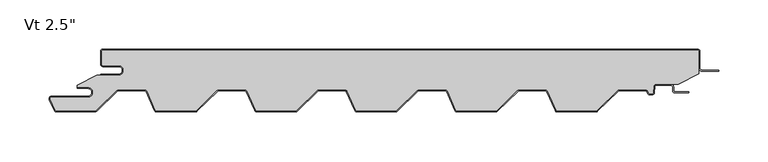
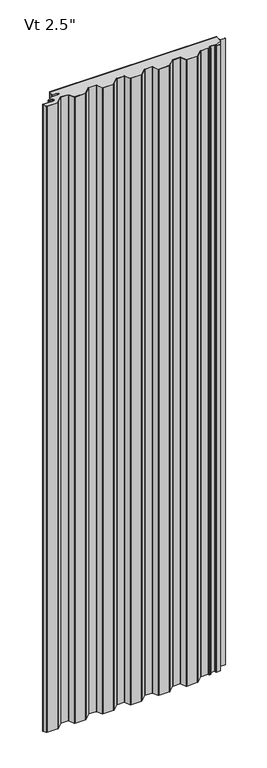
"""IFC4 building model written with IfcOpenShell, lengths in millimetres: plate geometry."""

from ifc_helpers import new_model, si_unit, point, frame_2d, origin, origin_with_axes, place, context, project, spatial, polyline, circle_curve, trimmed, segment, composite_curve, outline, extrude, source, transform, mapped, element, save


def plate_41a4497b(model_context):
    return source(origin(), model_context, "Body", "SweptSolid", [
        extrude(outline(composite_curve([segment(trimmed(circle_curve(frame_2d((-285.74375, -21.4324412)), 4.96875), [point((-285.74375, -26.4011912))], [point((-285.74375, -16.4636912))], True, "CARTESIAN"), True, "CONTINUOUS"), segment(polyline([(-285.74375, -16.4636912), (-301.61875, -16.4636912)]), True, "CONTINUOUS"), segment(trimmed(circle_curve(frame_2d((-301.61875, -15.0824412)), 1.38125), [point((-301.61875, -16.4636912))], [point((-303.0, -15.0824412))], False, "CARTESIAN"), True, "CONTINUOUS"), segment(polyline([(-303.0, -15.0824412), (-303.0, -2.3824412)]), True, "CONTINUOUS"), segment(trimmed(circle_curve(frame_2d((-301.61875, -2.3824412)), 1.38125), [point((-303.0, -2.3824412))], [point((-301.61875, -1.0011912))], False, "CARTESIAN"), True, "CONTINUOUS"), segment(polyline([(-301.61875, -1.0011912), (301.63125, -1.0011912)]), True, "CONTINUOUS"), segment(trimmed(circle_curve(frame_2d((301.63125, -2.3824412)), 1.38125), [point((301.63125, -1.0011912))], [point((303.0125, -2.3824412))], False, "CARTESIAN"), True, "CONTINUOUS"), segment(polyline([(303.0125, -2.3824412), (303.0125, -24.8719682), (282.1955434, -35.5136912), (259.7683457, -35.5136912)]), True, "CONTINUOUS"), segment(trimmed(circle_curve(frame_2d((259.7683457, -38.1011912)), 2.5875), [point((259.7683457, -35.5136912))], [point((257.1843918, -37.9657719))], True, "CARTESIAN"), True, "CONTINUOUS"), segment(polyline([(257.1843918, -37.9657719), (256.8823155, -43.7297302)]), True, "CONTINUOUS"), segment(trimmed(circle_curve(frame_2d((255.5029585, -43.6574412)), 1.38125), [point((256.8823155, -43.7297302))], [point((255.5029585, -45.0386912))], False, "CARTESIAN"), True, "CONTINUOUS"), segment(polyline([(255.5029585, -45.0386912), (253.1754519, -45.0386912)]), True, "CONTINUOUS"), segment(trimmed(circle_curve(frame_2d((253.1754519, -43.6574412)), 1.38125), [point((253.1754519, -45.0386912))], [point((251.9124516, -44.2166208))], False, "CARTESIAN"), True, "CONTINUOUS"), segment(polyline([(251.9124516, -44.2166208), (251.1640306, -42.5261871)]), True, "CONTINUOUS"), segment(trimmed(circle_curve(frame_2d((248.7980481, -43.5737)), 2.5875), [point((251.1640306, -42.5261871))], [point((248.7980481, -40.9862))], True, "CARTESIAN"), True, "CONTINUOUS"), segment(polyline([(248.7980481, -40.9862), (222.2742003, -40.9862)]), True, "CONTINUOUS"), segment(trimmed(circle_curve(frame_2d((222.2742003, -43.5737)), 2.5875), [point((222.2742003, -40.9862))], [point((220.4745496, -41.7145567))], True, "CARTESIAN"), True, "CONTINUOUS"), segment(polyline([(220.4745496, -41.7145567), (199.4036462, -62.1111912)]), True, "CONTINUOUS"), segment(trimmed(circle_curve(frame_2d((198.4429631, -61.11875)), 1.38125), [point((199.4036462, -62.1111912))], [point((198.4429631, -62.5))], False, "CARTESIAN"), True, "CONTINUOUS"), segment(polyline([(198.4429631, -62.5), (159.3062557, -62.5)]), True, "CONTINUOUS"), segment(trimmed(circle_curve(frame_2d((159.3062557, -61.11875)), 1.38125), [point((159.3062557, -62.5))], [point((158.0432554, -61.6779296))], False, "CARTESIAN"), True, "CONTINUOUS"), segment(polyline([(158.0432554, -61.6779296), (149.5640306, -42.5261871)]), True, "CONTINUOUS"), segment(trimmed(circle_curve(frame_2d((147.1980481, -43.5737)), 2.5875), [point((149.5640306, -42.5261871))], [point((147.1980481, -40.9862))], True, "CARTESIAN"), True, "CONTINUOUS"), segment(polyline([(147.1980481, -40.9862), (120.6742003, -40.9862)]), True, "CONTINUOUS"), segment(trimmed(circle_curve(frame_2d((120.6742003, -43.5737)), 2.5875), [point((120.6742003, -40.9862))], [point((118.8745496, -41.7145567))], True, "CARTESIAN"), True, "CONTINUOUS"), segment(polyline([(118.8745496, -41.7145567), (97.8036462, -62.1111912)]), True, "CONTINUOUS"), segment(trimmed(circle_curve(frame_2d((96.8429631, -61.11875)), 1.38125), [point((97.8036462, -62.1111912))], [point((96.8429631, -62.5))], False, "CARTESIAN"), True, "CONTINUOUS"), segment(polyline([(96.8429631, -62.5), (57.7062557, -62.5)]), True, "CONTINUOUS"), segment(trimmed(circle_curve(frame_2d((57.7062557, -61.11875)), 1.38125), [point((57.7062557, -62.5))], [point((56.4432554, -61.6779296))], False, "CARTESIAN"), True, "CONTINUOUS"), segment(polyline([(56.4432554, -61.6779296), (47.9640306, -42.5261871)]), True, "CONTINUOUS"), segment(trimmed(circle_curve(frame_2d((45.5980481, -43.5737)), 2.5875), [point((47.9640306, -42.5261871))], [point((45.5980481, -40.9862))], True, "CARTESIAN"), True, "CONTINUOUS"), segment(polyline([(45.5980481, -40.9862), (19.0742003, -40.9862)]), True, "CONTINUOUS"), segment(trimmed(circle_curve(frame_2d((19.0742003, -43.5737)), 2.5875), [point((19.0742003, -40.9862))], [point((17.2745496, -41.7145567))], True, "CARTESIAN"), True, "CONTINUOUS"), segment(polyline([(17.2745496, -41.7145567), (-3.7963538, -62.1111912)]), True, "CONTINUOUS"), segment(trimmed(circle_curve(frame_2d((-4.7570369, -61.11875)), 1.38125), [point((-3.7963538, -62.1111912))], [point((-4.7570369, -62.5))], False, "CARTESIAN"), True, "CONTINUOUS"), segment(polyline([(-4.7570369, -62.5), (-43.8937443, -62.5)]), True, "CONTINUOUS"), segment(trimmed(circle_curve(frame_2d((-43.8937443, -61.11875)), 1.38125), [point((-43.8937443, -62.5))], [point((-45.1567446, -61.6779296))], False, "CARTESIAN"), True, "CONTINUOUS"), segment(polyline([(-45.1567446, -61.6779296), (-53.6359694, -42.5261871)]), True, "CONTINUOUS"), segment(trimmed(circle_curve(frame_2d((-56.0019519, -43.5737)), 2.5875), [point((-53.6359694, -42.5261871))], [point((-56.0019519, -40.9862))], True, "CARTESIAN"), True, "CONTINUOUS"), segment(polyline([(-56.0019519, -40.9862), (-82.5257997, -40.9862)]), True, "CONTINUOUS"), segment(trimmed(circle_curve(frame_2d((-82.5257997, -43.5737)), 2.5875), [point((-82.5257997, -40.9862))], [point((-84.3254504, -41.7145567))], True, "CARTESIAN"), True, "CONTINUOUS"), segment(polyline([(-84.3254504, -41.7145567), (-105.3963538, -62.1111912)]), True, "CONTINUOUS"), segment(trimmed(circle_curve(frame_2d((-106.3570369, -61.11875)), 1.38125), [point((-105.3963538, -62.1111912))], [point((-106.3570369, -62.5))], False, "CARTESIAN"), True, "CONTINUOUS"), segment(polyline([(-106.3570369, -62.5), (-145.4937443, -62.5)]), True, "CONTINUOUS"), segment(trimmed(circle_curve(frame_2d((-145.4937443, -61.11875)), 1.38125), [point((-145.4937443, -62.5))], [point((-146.7567446, -61.6779296))], False, "CARTESIAN"), True, "CONTINUOUS"), segment(polyline([(-146.7567446, -61.6779296), (-155.2359694, -42.5261871)]), True, "CONTINUOUS"), segment(trimmed(circle_curve(frame_2d((-157.6019519, -43.5737)), 2.5875), [point((-155.2359694, -42.5261871))], [point((-157.6019519, -40.9862))], True, "CARTESIAN"), True, "CONTINUOUS"), segment(polyline([(-157.6019519, -40.9862), (-184.1257997, -40.9862)]), True, "CONTINUOUS"), segment(trimmed(circle_curve(frame_2d((-184.1257997, -43.5737)), 2.5875), [point((-184.1257997, -40.9862))], [point((-185.9254504, -41.7145567))], True, "CARTESIAN"), True, "CONTINUOUS"), segment(polyline([(-185.9254504, -41.7145567), (-206.9963538, -62.1111912)]), True, "CONTINUOUS"), segment(trimmed(circle_curve(frame_2d((-207.9570369, -61.11875)), 1.38125), [point((-206.9963538, -62.1111912))], [point((-207.9570369, -62.5))], False, "CARTESIAN"), True, "CONTINUOUS"), segment(polyline([(-207.9570369, -62.5), (-247.0937443, -62.5)]), True, "CONTINUOUS"), segment(trimmed(circle_curve(frame_2d((-247.0937443, -61.11875)), 1.38125), [point((-247.0937443, -62.5))], [point((-248.3567446, -61.6779296))], False, "CARTESIAN"), True, "CONTINUOUS"), segment(polyline([(-248.3567446, -61.6779296), (-256.8359694, -42.5261871)]), True, "CONTINUOUS"), segment(trimmed(circle_curve(frame_2d((-259.2019519, -43.5737)), 2.5875), [point((-256.8359694, -42.5261871))], [point((-259.2019519, -40.9862))], True, "CARTESIAN"), True, "CONTINUOUS"), segment(polyline([(-259.2019519, -40.9862), (-285.7257997, -40.9862)]), True, "CONTINUOUS"), segment(trimmed(circle_curve(frame_2d((-285.7257997, -43.5737)), 2.5875), [point((-285.7257997, -40.9862))], [point((-287.5254504, -41.7145567))], True, "CARTESIAN"), True, "CONTINUOUS"), segment(polyline([(-287.5254504, -41.7145567), (-308.3876931, -61.9092077)]), True, "CONTINUOUS"), segment(trimmed(circle_curve(frame_2d((-309.8474446, -60.4012)), 2.0988), [point((-308.3876931, -61.9092077))], [point((-309.8474446, -62.5))], False, "CARTESIAN"), True, "CONTINUOUS"), segment(polyline([(-309.8474446, -62.5), (-348.6937443, -62.5)]), True, "CONTINUOUS"), segment(trimmed(circle_curve(frame_2d((-348.6937443, -61.11875)), 1.38125), [point((-348.6937443, -62.5))], [point((-349.9567446, -61.6779296))], False, "CARTESIAN"), True, "CONTINUOUS"), segment(polyline([(-349.9567446, -61.6779296), (-354.8761552, -50.5666208)]), True, "CONTINUOUS"), segment(trimmed(circle_curve(frame_2d((-353.6131549, -50.0074412)), 1.38125), [point((-354.8761552, -50.5666208))], [point((-353.6131549, -48.6261912))], False, "CARTESIAN"), True, "CONTINUOUS"), segment(polyline([(-353.6131549, -48.6261912), (-316.7, -48.6261912)]), True, "CONTINUOUS"), segment(trimmed(circle_curve(frame_2d((-316.7, -43.6574412)), 4.96875), [point((-316.7, -48.6261912))], [point((-316.7, -38.6886912))], True, "CARTESIAN"), True, "CONTINUOUS"), segment(polyline([(-316.7, -38.6886912), (-327.8125, -38.6886912), (-327.8125, -36.533822), (-307.9914112, -26.4011912), (-285.74375, -26.4011912)]), True, "CONTINUOUS")], self_intersect=False)), origin_with_axes(), (0.0, 0.0, 1.0), 2400.0),
        extrude(outline(composite_curve([segment(polyline([(-304.0, -25.4), (-285.74375, -25.4)]), True, "CONTINUOUS"), segment(trimmed(circle_curve(frame_2d((-285.74375, -21.43125)), 3.96875), [point((-285.74375, -25.4))], [point((-285.74375, -17.4625))], True, "CARTESIAN"), True, "CONTINUOUS"), segment(polyline([(-285.74375, -17.4625), (-301.61875, -17.4625)]), True, "CONTINUOUS"), segment(trimmed(circle_curve(frame_2d((-301.61875, -15.08125)), 2.38125), [point((-301.61875, -17.4625))], [point((-304.0, -15.08125))], False, "CARTESIAN"), True, "CONTINUOUS"), segment(polyline([(-304.0, -15.08125), (-304.0, -2.38125)]), True, "CONTINUOUS"), segment(trimmed(circle_curve(frame_2d((-301.61875, -2.38125)), 2.38125), [point((-304.0, -2.38125))], [point((-301.61875, 0.0))], False, "CARTESIAN"), True, "CONTINUOUS"), segment(polyline([(-301.61875, 0.0), (301.63125, 0.0)]), True, "CONTINUOUS"), segment(trimmed(circle_curve(frame_2d((301.63125, -2.38125)), 2.38125), [point((301.63125, 0.0))], [point((304.0125, -2.38125))], False, "CARTESIAN"), True, "CONTINUOUS"), segment(polyline([(304.0125, -2.38125), (304.0125, -19.446875)]), True, "CONTINUOUS"), segment(trimmed(circle_curve(frame_2d((305.6, -19.446875)), 1.5875), [point((304.0125, -19.446875))], [point((305.6, -21.034375))], True, "CARTESIAN"), True, "CONTINUOUS"), segment(polyline([(305.6, -21.034375), (323.0625, -21.034375), (323.0625, -22.034375), (305.6, -22.034375)]), True, "CONTINUOUS"), segment(trimmed(circle_curve(frame_2d((305.6, -19.446875)), 2.5875), [point((305.6, -22.034375))], [point((303.0125, -19.446875))], False, "CARTESIAN"), True, "CONTINUOUS"), segment(polyline([(303.0125, -19.446875), (303.0125, -2.38125)]), True, "CONTINUOUS"), segment(trimmed(circle_curve(frame_2d((301.63125, -2.38125)), 1.38125), [point((303.0125, -2.38125))], [point((301.63125, -1.0))], True, "CARTESIAN"), True, "CONTINUOUS"), segment(polyline([(301.63125, -1.0), (-301.61875, -1.0)]), True, "CONTINUOUS"), segment(trimmed(circle_curve(frame_2d((-301.61875, -2.38125)), 1.38125), [point((-301.61875, -1.0))], [point((-303.0, -2.38125))], True, "CARTESIAN"), True, "CONTINUOUS"), segment(polyline([(-303.0, -2.38125), (-303.0, -15.08125)]), True, "CONTINUOUS"), segment(trimmed(circle_curve(frame_2d((-301.61875, -15.08125)), 1.38125), [point((-303.0, -15.08125))], [point((-301.61875, -16.4625))], True, "CARTESIAN"), True, "CONTINUOUS"), segment(polyline([(-301.61875, -16.4625), (-285.74375, -16.4625)]), True, "CONTINUOUS"), segment(trimmed(circle_curve(frame_2d((-285.74375, -21.43125)), 4.96875), [point((-285.74375, -16.4625))], [point((-285.74375, -26.4))], False, "CARTESIAN"), True, "CONTINUOUS"), segment(polyline([(-285.74375, -26.4), (-304.0, -26.4), (-304.0, -25.4)]), True, "CONTINUOUS")], self_intersect=False)), origin_with_axes(), (0.0, 0.0, 1.0), 2400.0),
        extrude(outline(composite_curve([segment(trimmed(circle_curve(frame_2d((-316.7, -43.6574412)), 3.96875), [point((-316.7, -47.6261912))], [point((-316.7, -39.6886912))], True, "CARTESIAN"), True, "CONTINUOUS"), segment(polyline([(-316.7, -39.6886912), (-327.8125, -39.6886912), (-327.8125, -38.6886912), (-316.7, -38.6886912)]), True, "CONTINUOUS"), segment(trimmed(circle_curve(frame_2d((-316.7, -43.6574412)), 4.96875), [point((-316.7, -38.6886912))], [point((-316.7, -48.6261912))], False, "CARTESIAN"), True, "CONTINUOUS"), segment(polyline([(-316.7, -48.6261912), (-353.6131549, -48.6261912)]), True, "CONTINUOUS"), segment(trimmed(circle_curve(frame_2d((-353.6131549, -50.0074412)), 1.38125), [point((-353.6131549, -48.6261912))], [point((-354.8761552, -50.5666208))], True, "CARTESIAN"), True, "CONTINUOUS"), segment(polyline([(-354.8761552, -50.5666208), (-349.9567446, -61.6779296)]), True, "CONTINUOUS"), segment(trimmed(circle_curve(frame_2d((-348.6937443, -61.11875)), 1.38125), [point((-349.9567446, -61.6779296))], [point((-348.6937443, -62.5))], True, "CARTESIAN"), True, "CONTINUOUS"), segment(polyline([(-348.6937443, -62.5), (-309.8474446, -62.5)]), True, "CONTINUOUS"), segment(trimmed(circle_curve(frame_2d((-309.8474446, -60.4012)), 2.0988), [point((-309.8474446, -62.5))], [point((-308.3876931, -61.9092077))], True, "CARTESIAN"), True, "CONTINUOUS"), segment(polyline([(-308.3876931, -61.9092077), (-287.5254504, -41.7145567)]), True, "CONTINUOUS"), segment(trimmed(circle_curve(frame_2d((-285.7257997, -43.5737)), 2.5875), [point((-287.5254504, -41.7145567))], [point((-285.7257997, -40.9862))], False, "CARTESIAN"), True, "CONTINUOUS"), segment(polyline([(-285.7257997, -40.9862), (-259.2019519, -40.9862)]), True, "CONTINUOUS"), segment(trimmed(circle_curve(frame_2d((-259.2019519, -43.5737)), 2.5875), [point((-259.2019519, -40.9862))], [point((-256.8359694, -42.5261871))], False, "CARTESIAN"), True, "CONTINUOUS"), segment(polyline([(-256.8359694, -42.5261871), (-248.3567446, -61.6779296)]), True, "CONTINUOUS"), segment(trimmed(circle_curve(frame_2d((-247.0937443, -61.11875)), 1.38125), [point((-248.3567446, -61.6779296))], [point((-247.0937443, -62.5))], True, "CARTESIAN"), True, "CONTINUOUS"), segment(polyline([(-247.0937443, -62.5), (-207.9570369, -62.5)]), True, "CONTINUOUS"), segment(trimmed(circle_curve(frame_2d((-207.9570369, -61.11875)), 1.38125), [point((-207.9570369, -62.5))], [point((-206.9963538, -62.1111912))], True, "CARTESIAN"), True, "CONTINUOUS"), segment(polyline([(-206.9963538, -62.1111912), (-185.9254504, -41.7145567)]), True, "CONTINUOUS"), segment(trimmed(circle_curve(frame_2d((-184.1257997, -43.5737)), 2.5875), [point((-185.9254504, -41.7145567))], [point((-184.1257997, -40.9862))], False, "CARTESIAN"), True, "CONTINUOUS"), segment(polyline([(-184.1257997, -40.9862), (-157.6019519, -40.9862)]), True, "CONTINUOUS"), segment(trimmed(circle_curve(frame_2d((-157.6019519, -43.5737)), 2.5875), [point((-157.6019519, -40.9862))], [point((-155.2359694, -42.5261871))], False, "CARTESIAN"), True, "CONTINUOUS"), segment(polyline([(-155.2359694, -42.5261871), (-146.7567446, -61.6779296)]), True, "CONTINUOUS"), segment(trimmed(circle_curve(frame_2d((-145.4937443, -61.11875)), 1.38125), [point((-146.7567446, -61.6779296))], [point((-145.4937443, -62.5))], True, "CARTESIAN"), True, "CONTINUOUS"), segment(polyline([(-145.4937443, -62.5), (-106.3570369, -62.5)]), True, "CONTINUOUS"), segment(trimmed(circle_curve(frame_2d((-106.3570369, -61.11875)), 1.38125), [point((-106.3570369, -62.5))], [point((-105.3963538, -62.1111912))], True, "CARTESIAN"), True, "CONTINUOUS"), segment(polyline([(-105.3963538, -62.1111912), (-84.3254504, -41.7145567)]), True, "CONTINUOUS"), segment(trimmed(circle_curve(frame_2d((-82.5257997, -43.5737)), 2.5875), [point((-84.3254504, -41.7145567))], [point((-82.5257997, -40.9862))], False, "CARTESIAN"), True, "CONTINUOUS"), segment(polyline([(-82.5257997, -40.9862), (-56.0019519, -40.9862)]), True, "CONTINUOUS"), segment(trimmed(circle_curve(frame_2d((-56.0019519, -43.5737)), 2.5875), [point((-56.0019519, -40.9862))], [point((-53.6359694, -42.5261871))], False, "CARTESIAN"), True, "CONTINUOUS"), segment(polyline([(-53.6359694, -42.5261871), (-45.1567446, -61.6779296)]), True, "CONTINUOUS"), segment(trimmed(circle_curve(frame_2d((-43.8937443, -61.11875)), 1.38125), [point((-45.1567446, -61.6779296))], [point((-43.8937443, -62.5))], True, "CARTESIAN"), True, "CONTINUOUS"), segment(polyline([(-43.8937443, -62.5), (-4.7570369, -62.5)]), True, "CONTINUOUS"), segment(trimmed(circle_curve(frame_2d((-4.7570369, -61.11875)), 1.38125), [point((-4.7570369, -62.5))], [point((-3.7963538, -62.1111912))], True, "CARTESIAN"), True, "CONTINUOUS"), segment(polyline([(-3.7963538, -62.1111912), (17.2745496, -41.7145567)]), True, "CONTINUOUS"), segment(trimmed(circle_curve(frame_2d((19.0742003, -43.5737)), 2.5875), [point((17.2745496, -41.7145567))], [point((19.0742003, -40.9862))], False, "CARTESIAN"), True, "CONTINUOUS"), segment(polyline([(19.0742003, -40.9862), (45.5980481, -40.9862)]), True, "CONTINUOUS"), segment(trimmed(circle_curve(frame_2d((45.5980481, -43.5737)), 2.5875), [point((45.5980481, -40.9862))], [point((47.9640306, -42.5261871))], False, "CARTESIAN"), True, "CONTINUOUS"), segment(polyline([(47.9640306, -42.5261871), (56.4432554, -61.6779296)]), True, "CONTINUOUS"), segment(trimmed(circle_curve(frame_2d((57.7062557, -61.11875)), 1.38125), [point((56.4432554, -61.6779296))], [point((57.7062557, -62.5))], True, "CARTESIAN"), True, "CONTINUOUS"), segment(polyline([(57.7062557, -62.5), (96.8429631, -62.5)]), True, "CONTINUOUS"), segment(trimmed(circle_curve(frame_2d((96.8429631, -61.11875)), 1.38125), [point((96.8429631, -62.5))], [point((97.8036462, -62.1111912))], True, "CARTESIAN"), True, "CONTINUOUS"), segment(polyline([(97.8036462, -62.1111912), (118.8745496, -41.7145567)]), True, "CONTINUOUS"), segment(trimmed(circle_curve(frame_2d((120.6742003, -43.5737)), 2.5875), [point((118.8745496, -41.7145567))], [point((120.6742003, -40.9862))], False, "CARTESIAN"), True, "CONTINUOUS"), segment(polyline([(120.6742003, -40.9862), (147.1980481, -40.9862)]), True, "CONTINUOUS"), segment(trimmed(circle_curve(frame_2d((147.1980481, -43.5737)), 2.5875), [point((147.1980481, -40.9862))], [point((149.5640306, -42.5261871))], False, "CARTESIAN"), True, "CONTINUOUS"), segment(polyline([(149.5640306, -42.5261871), (158.0432554, -61.6779296)]), True, "CONTINUOUS"), segment(trimmed(circle_curve(frame_2d((159.3062557, -61.11875)), 1.38125), [point((158.0432554, -61.6779296))], [point((159.3062557, -62.5))], True, "CARTESIAN"), True, "CONTINUOUS"), segment(polyline([(159.3062557, -62.5), (198.4429631, -62.5)]), True, "CONTINUOUS"), segment(trimmed(circle_curve(frame_2d((198.4429631, -61.11875)), 1.38125), [point((198.4429631, -62.5))], [point((199.4036462, -62.1111912))], True, "CARTESIAN"), True, "CONTINUOUS"), segment(polyline([(199.4036462, -62.1111912), (220.4745496, -41.7145567)]), True, "CONTINUOUS"), segment(trimmed(circle_curve(frame_2d((222.2742003, -43.5737)), 2.5875), [point((220.4745496, -41.7145567))], [point((222.2742003, -40.9862))], False, "CARTESIAN"), True, "CONTINUOUS"), segment(polyline([(222.2742003, -40.9862), (248.7980481, -40.9862)]), True, "CONTINUOUS"), segment(trimmed(circle_curve(frame_2d((248.7980481, -43.5737)), 2.5875), [point((248.7980481, -40.9862))], [point((251.1640306, -42.5261871))], False, "CARTESIAN"), True, "CONTINUOUS"), segment(polyline([(251.1640306, -42.5261871), (251.9124516, -44.2166208)]), True, "CONTINUOUS"), segment(trimmed(circle_curve(frame_2d((253.1754519, -43.6574412)), 1.38125), [point((251.9124516, -44.2166208))], [point((253.1754519, -45.0386912))], True, "CARTESIAN"), True, "CONTINUOUS"), segment(polyline([(253.1754519, -45.0386912), (255.5029585, -45.0386912)]), True, "CONTINUOUS"), segment(trimmed(circle_curve(frame_2d((255.5029585, -43.6574412)), 1.38125), [point((255.5029585, -45.0386912))], [point((256.8823155, -43.7297302))], True, "CARTESIAN"), True, "CONTINUOUS"), segment(polyline([(256.8823155, -43.7297302), (257.1843918, -37.9657719)]), True, "CONTINUOUS"), segment(trimmed(circle_curve(frame_2d((259.7683457, -38.1011912)), 2.5875), [point((257.1843918, -37.9657719))], [point((259.7683457, -35.5136912))], False, "CARTESIAN"), True, "CONTINUOUS"), segment(polyline([(259.7683457, -35.5136912), (274.64375, -35.5136912)]), True, "CONTINUOUS"), segment(trimmed(circle_curve(frame_2d((274.64375, -38.1011912)), 2.5875), [point((274.64375, -35.5136912))], [point((277.23125, -38.1011912))], False, "CARTESIAN"), True, "CONTINUOUS"), segment(polyline([(277.23125, -38.1011912), (277.23125, -41.6730662)]), True, "CONTINUOUS"), segment(trimmed(circle_curve(frame_2d((278.6125, -41.6730662)), 1.38125), [point((277.23125, -41.6730662))], [point((278.6125, -43.0543162))], True, "CARTESIAN"), True, "CONTINUOUS"), segment(polyline([(278.6125, -43.0543162), (292.9, -43.0543162), (292.9, -44.0543162), (278.6125, -44.0543162)]), True, "CONTINUOUS"), segment(trimmed(circle_curve(frame_2d((278.6125, -41.6730662)), 2.38125), [point((278.6125, -44.0543162))], [point((276.23125, -41.6730662))], False, "CARTESIAN"), True, "CONTINUOUS"), segment(polyline([(276.23125, -41.6730662), (276.23125, -38.1011912)]), True, "CONTINUOUS"), segment(trimmed(circle_curve(frame_2d((274.64375, -38.1011912)), 1.5875), [point((276.23125, -38.1011912))], [point((274.64375, -36.5136912))], True, "CARTESIAN"), True, "CONTINUOUS"), segment(polyline([(274.64375, -36.5136912), (259.7683457, -36.5136912)]), True, "CONTINUOUS"), segment(trimmed(circle_curve(frame_2d((259.7683457, -38.1011912)), 1.5875), [point((259.7683457, -36.5136912))], [point((258.1830213, -38.0181078))], True, "CARTESIAN"), True, "CONTINUOUS"), segment(polyline([(258.1830213, -38.0181078), (257.8809451, -43.7820662)]), True, "CONTINUOUS"), segment(trimmed(circle_curve(frame_2d((255.5029585, -43.6574412)), 2.38125), [point((257.8809451, -43.7820662))], [point((255.5029585, -46.0386912))], False, "CARTESIAN"), True, "CONTINUOUS"), segment(polyline([(255.5029585, -46.0386912), (253.1754519, -46.0386912)]), True, "CONTINUOUS"), segment(trimmed(circle_curve(frame_2d((253.1754519, -43.6574412)), 2.38125), [point((253.1754519, -46.0386912))], [point((250.9980623, -44.6214567))], False, "CARTESIAN"), True, "CONTINUOUS"), segment(polyline([(250.9980623, -44.6214567), (250.2496412, -42.931023)]), True, "CONTINUOUS"), segment(trimmed(circle_curve(frame_2d((248.7980481, -43.5737)), 1.5875), [point((250.2496412, -42.931023))], [point((248.7980481, -41.9862))], True, "CARTESIAN"), True, "CONTINUOUS"), segment(polyline([(248.7980481, -41.9862), (222.2742003, -41.9862)]), True, "CONTINUOUS"), segment(trimmed(circle_curve(frame_2d((222.2742003, -43.5737)), 1.5875), [point((222.2742003, -41.9862))], [point((221.1700668, -42.4330662))], True, "CARTESIAN"), True, "CONTINUOUS"), segment(polyline([(221.1700668, -42.4330662), (200.0991634, -62.8297007)]), True, "CONTINUOUS"), segment(trimmed(circle_curve(frame_2d((198.4429631, -61.11875)), 2.38125), [point((200.0991634, -62.8297007))], [point((198.4429631, -63.5))], False, "CARTESIAN"), True, "CONTINUOUS"), segment(polyline([(198.4429631, -63.5), (159.3062557, -63.5)]), True, "CONTINUOUS"), segment(trimmed(circle_curve(frame_2d((159.3062557, -61.11875)), 2.38125), [point((159.3062557, -63.5))], [point((157.1288661, -62.0827655))], False, "CARTESIAN"), True, "CONTINUOUS"), segment(polyline([(157.1288661, -62.0827655), (148.6496412, -42.931023)]), True, "CONTINUOUS"), segment(trimmed(circle_curve(frame_2d((147.1980481, -43.5737)), 1.5875), [point((148.6496412, -42.931023))], [point((147.1980481, -41.9862))], True, "CARTESIAN"), True, "CONTINUOUS"), segment(polyline([(147.1980481, -41.9862), (120.6742003, -41.9862)]), True, "CONTINUOUS"), segment(trimmed(circle_curve(frame_2d((120.6742003, -43.5737)), 1.5875), [point((120.6742003, -41.9862))], [point((119.5700668, -42.4330662))], True, "CARTESIAN"), True, "CONTINUOUS"), segment(polyline([(119.5700668, -42.4330662), (98.4991634, -62.8297007)]), True, "CONTINUOUS"), segment(trimmed(circle_curve(frame_2d((96.8429631, -61.11875)), 2.38125), [point((98.4991634, -62.8297007))], [point((96.8429631, -63.5))], False, "CARTESIAN"), True, "CONTINUOUS"), segment(polyline([(96.8429631, -63.5), (57.7062557, -63.5)]), True, "CONTINUOUS"), segment(trimmed(circle_curve(frame_2d((57.7062557, -61.11875)), 2.38125), [point((57.7062557, -63.5))], [point((55.5288661, -62.0827655))], False, "CARTESIAN"), True, "CONTINUOUS"), segment(polyline([(55.5288661, -62.0827655), (47.0496412, -42.931023)]), True, "CONTINUOUS"), segment(trimmed(circle_curve(frame_2d((45.5980481, -43.5737)), 1.5875), [point((47.0496412, -42.931023))], [point((45.5980481, -41.9862))], True, "CARTESIAN"), True, "CONTINUOUS"), segment(polyline([(45.5980481, -41.9862), (19.0742003, -41.9862)]), True, "CONTINUOUS"), segment(trimmed(circle_curve(frame_2d((19.0742003, -43.5737)), 1.5875), [point((19.0742003, -41.9862))], [point((17.9700668, -42.4330662))], True, "CARTESIAN"), True, "CONTINUOUS"), segment(polyline([(17.9700668, -42.4330662), (-3.1008366, -62.8297007)]), True, "CONTINUOUS"), segment(trimmed(circle_curve(frame_2d((-4.7570369, -61.11875)), 2.38125), [point((-3.1008366, -62.8297007))], [point((-4.7570369, -63.5))], False, "CARTESIAN"), True, "CONTINUOUS"), segment(polyline([(-4.7570369, -63.5), (-43.8937443, -63.5)]), True, "CONTINUOUS"), segment(trimmed(circle_curve(frame_2d((-43.8937443, -61.11875)), 2.38125), [point((-43.8937443, -63.5))], [point((-46.0711339, -62.0827655))], False, "CARTESIAN"), True, "CONTINUOUS"), segment(polyline([(-46.0711339, -62.0827655), (-54.5503588, -42.931023)]), True, "CONTINUOUS"), segment(trimmed(circle_curve(frame_2d((-56.0019519, -43.5737)), 1.5875), [point((-54.5503588, -42.931023))], [point((-56.0019519, -41.9862))], True, "CARTESIAN"), True, "CONTINUOUS"), segment(polyline([(-56.0019519, -41.9862), (-82.5257997, -41.9862)]), True, "CONTINUOUS"), segment(trimmed(circle_curve(frame_2d((-82.5257997, -43.5737)), 1.5875), [point((-82.5257997, -41.9862))], [point((-83.6299332, -42.4330662))], True, "CARTESIAN"), True, "CONTINUOUS"), segment(polyline([(-83.6299332, -42.4330662), (-104.7008366, -62.8297007)]), True, "CONTINUOUS"), segment(trimmed(circle_curve(frame_2d((-106.3570369, -61.11875)), 2.38125), [point((-104.7008366, -62.8297007))], [point((-106.3570369, -63.5))], False, "CARTESIAN"), True, "CONTINUOUS"), segment(polyline([(-106.3570369, -63.5), (-145.4937443, -63.5)]), True, "CONTINUOUS"), segment(trimmed(circle_curve(frame_2d((-145.4937443, -61.11875)), 2.38125), [point((-145.4937443, -63.5))], [point((-147.6711339, -62.0827655))], False, "CARTESIAN"), True, "CONTINUOUS"), segment(polyline([(-147.6711339, -62.0827655), (-156.1503588, -42.931023)]), True, "CONTINUOUS"), segment(trimmed(circle_curve(frame_2d((-157.6019519, -43.5737)), 1.5875), [point((-156.1503588, -42.931023))], [point((-157.6019519, -41.9862))], True, "CARTESIAN"), True, "CONTINUOUS"), segment(polyline([(-157.6019519, -41.9862), (-184.1257997, -41.9862)]), True, "CONTINUOUS"), segment(trimmed(circle_curve(frame_2d((-184.1257997, -43.5737)), 1.5875), [point((-184.1257997, -41.9862))], [point((-185.2299332, -42.4330662))], True, "CARTESIAN"), True, "CONTINUOUS"), segment(polyline([(-185.2299332, -42.4330662), (-206.3008366, -62.8297007)]), True, "CONTINUOUS"), segment(trimmed(circle_curve(frame_2d((-207.9570369, -61.11875)), 2.38125), [point((-206.3008366, -62.8297007))], [point((-207.9570369, -63.5))], False, "CARTESIAN"), True, "CONTINUOUS"), segment(polyline([(-207.9570369, -63.5), (-247.0937443, -63.5)]), True, "CONTINUOUS"), segment(trimmed(circle_curve(frame_2d((-247.0937443, -61.11875)), 2.38125), [point((-247.0937443, -63.5))], [point((-249.2711339, -62.0827655))], False, "CARTESIAN"), True, "CONTINUOUS"), segment(polyline([(-249.2711339, -62.0827655), (-257.7503588, -42.931023)]), True, "CONTINUOUS"), segment(trimmed(circle_curve(frame_2d((-259.2019519, -43.5737)), 1.5875), [point((-257.7503588, -42.931023))], [point((-259.2019519, -41.9862))], True, "CARTESIAN"), True, "CONTINUOUS"), segment(polyline([(-259.2019519, -41.9862), (-285.7257997, -41.9862)]), True, "CONTINUOUS"), segment(trimmed(circle_curve(frame_2d((-285.7257997, -43.5737)), 1.5875), [point((-285.7257997, -41.9862))], [point((-286.8299332, -42.4330662))], True, "CARTESIAN"), True, "CONTINUOUS"), segment(polyline([(-286.8299332, -42.4330662), (-307.6921759, -62.6277172)]), True, "CONTINUOUS"), segment(trimmed(circle_curve(frame_2d((-309.8474446, -60.4012)), 3.0988), [point((-307.6921759, -62.6277172))], [point((-309.8474446, -63.5))], False, "CARTESIAN"), True, "CONTINUOUS"), segment(polyline([(-309.8474446, -63.5), (-348.6937443, -63.5)]), True, "CONTINUOUS"), segment(trimmed(circle_curve(frame_2d((-348.6937443, -61.11875)), 2.38125), [point((-348.6937443, -63.5))], [point((-350.8711339, -62.0827655))], False, "CARTESIAN"), True, "CONTINUOUS"), segment(polyline([(-350.8711339, -62.0827655), (-355.7905446, -50.9714567)]), True, "CONTINUOUS"), segment(trimmed(circle_curve(frame_2d((-353.6131549, -50.0074412)), 2.38125), [point((-355.7905446, -50.9714567))], [point((-353.6131549, -47.6261912))], False, "CARTESIAN"), True, "CONTINUOUS"), segment(polyline([(-353.6131549, -47.6261912), (-316.7, -47.6261912)]), True, "CONTINUOUS")], self_intersect=False)), origin_with_axes(), (0.0, 0.0, 1.0), 2400.0),
    ])


if __name__ == "__main__":
    model = new_model("IFC4")
    model_context = context("Model", 3, world=origin())
    ifc_project = project(units=[si_unit("LENGTHUNIT", "METRE", prefix="MILLI")], contexts=[model_context])
    site = spatial("IfcSite", under=ifc_project)
    building = spatial("IfcBuilding", under=site)
    placement = place(None, origin())
    plate_shape = plate_41a4497b(model_context)
    element("IfcPlate", 1, ObjectType="KIP-24-DWR-R19-CP-Vt-S : Vt 2.5\"", at=placement, inside=building, context=model_context, shape_type="MappedRepresentation", body=[
        mapped(plate_shape, transform((0.0, 0.0, 0.0), x_axis=(1.0, 0.0, 0.0), y_axis=(0.0, 1.0, 0.0), z_axis=(0.0, 0.0, 1.0))),
    ])
    save(model, "model.ifc")
